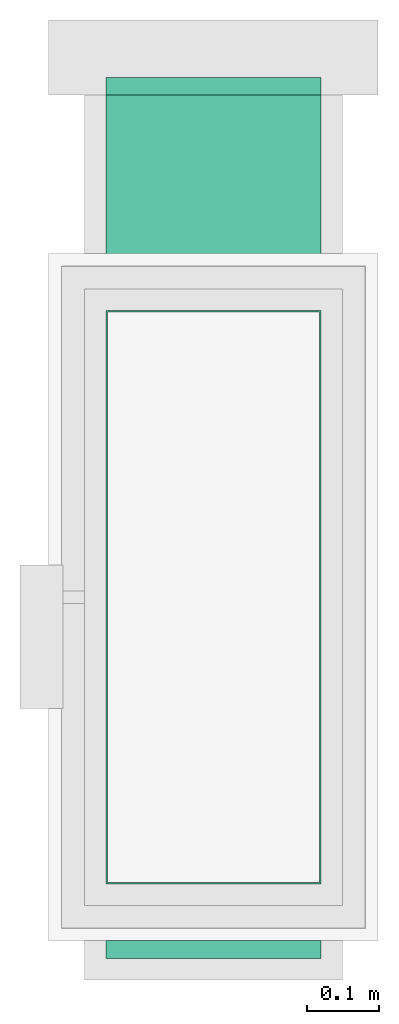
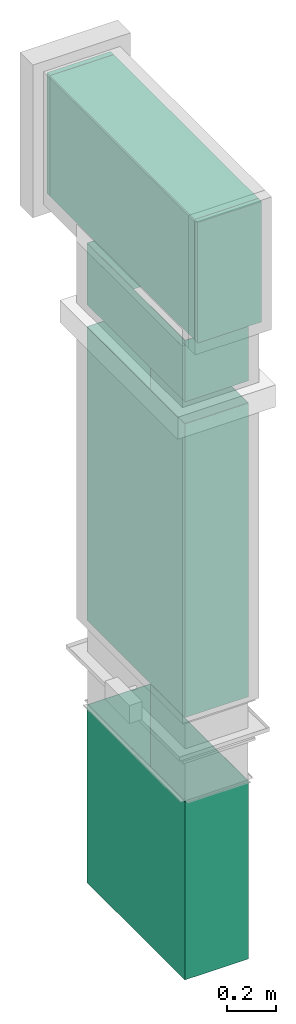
# One storey, part 2 of 4: 4 flow segments, 2 flow fittings.
"""IFC2X3 building model written with IfcOpenShell, lengths in millimetres."""

from ifc_helpers import new_model, entity, si_unit, converted_unit, derived_unit, direction, frame, origin_with_axes, origin_2d_with_axis, place, context, subcontext, project, spatial, hollow_rectangle, extrude, open_shell, surface_model, source, transform, mapped, type_object, element, save


model = new_model("IFC2X3")

# Units and contexts
model_context = context("Model", 3, precision=0.01, world=frame((0.0, 4.29681676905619e-09, 0.0)), true_north=direction((4.01073788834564e-13, 1.0)))
plan_context = context("Plan", 3, precision=0.01, world=frame((0.0, 4.29681676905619e-09, 0.0)), true_north=direction((4.01073788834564e-13, 1.0)))
body_context = subcontext(model_context, "Body", "Model", "MODEL_VIEW")
ifc_project = project(units=[converted_unit("PLANEANGLEUNIT", "DEGREE", entity("IfcPositiveLengthMeasure", 0.0174532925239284), si_unit("PLANEANGLEUNIT", "RADIAN"), dimensions=[0, 0, 0, 0, 0, 0, 0]), si_unit("AREAUNIT", "SQUARE_METRE"), si_unit("LENGTHUNIT", "METRE", prefix="MILLI"), si_unit("MASSUNIT", "GRAM", prefix="KILO"), si_unit("POWERUNIT", "WATT"), si_unit("PRESSUREUNIT", "PASCAL"), si_unit("FORCEUNIT", "NEWTON", prefix="KILO"), si_unit("ELECTRICVOLTAGEUNIT", "VOLT"), si_unit("ELECTRICCURRENTUNIT", "AMPERE"), si_unit("THERMODYNAMICTEMPERATUREUNIT", "DEGREE_CELSIUS"), si_unit("TIMEUNIT", "SECOND"), si_unit("VOLUMEUNIT", "CUBIC_METRE"), derived_unit("LINEARVELOCITYUNIT", [(si_unit("LENGTHUNIT", "METRE"), 1), (si_unit("TIMEUNIT", "SECOND"), -1)]), derived_unit("VOLUMETRICFLOWRATEUNIT", [(si_unit("VOLUMEUNIT", "CUBIC_METRE"), 1), (si_unit("TIMEUNIT", "SECOND"), -1)]), derived_unit("THERMALTRANSMITTANCEUNIT", [(si_unit("POWERUNIT", "WATT"), 1), (si_unit("THERMODYNAMICTEMPERATUREUNIT", "KELVIN"), -1), (si_unit("AREAUNIT", "SQUARE_METRE"), -1)]), derived_unit("SOUNDPRESSUREUNIT", [(si_unit("PRESSUREUNIT", "PASCAL"), 1)])], contexts=[model_context, plan_context])

# Site, building, storey
site_placement = place(None, frame((0.0, -4.29681676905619e-09, 0.0), z_axis=(0.0, 0.0, 1.0), x_axis=(1.0, 0.0, 0.0)))
site = spatial("IfcSite", under=ifc_project, at=site_placement, CompositionType="ELEMENT")
building_placement = place(site_placement, frame((0.0, 4.29681676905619e-09, 0.0), z_axis=(0.0, 0.0, 1.0), x_axis=(1.0, 0.0, 0.0)))
building = spatial("IfcBuilding", under=site, at=building_placement, Name="mc-building", CompositionType="ELEMENT")
storey_placement = place(building_placement, frame((0.0, 0.0, 204000.0), z_axis=(0.0, 0.0, 1.0), x_axis=(1.0, 0.0, 0.0)))
storey = spatial("IfcBuildingStorey", under=building, at=storey_placement, Name="Nivå D", CompositionType="ELEMENT", Elevation=204000.0)

# Flow fittings
duct_fitting_type = type_object("IfcDuctFittingType", Name="magirect_plug1_001", PredefinedType="OBSTRUCTION")
shared_shape_1 = source(origin_with_axes(), body_context, "Body", "SurfaceModel", [
    surface_model("IfcShellBasedSurfaceModel", [(0.0, 150.0, 300.0), (0.0, 150.0, -300.0), (0.0, -150.0, -300.0), (0.0, -150.0, 300.0), (25.0, -150.0, -300.0), (25.0, 150.0, -300.0), (25.0, 150.0, 300.0), (25.0, -150.0, 300.0)], [open_shell([[[0, 1, 2]], [[2, 3, 0]], [[4, 5, 6]], [[6, 7, 4]], [[1, 0, 5]], [[6, 5, 0]], [[2, 1, 5]], [[5, 4, 2]], [[3, 2, 7]], [[4, 7, 2]], [[0, 3, 6]], [[7, 6, 3]]])]),
])
for number, where, z_axis, x_axis, name in (
    (1, (524180.93348, 457233.89597, 9376.44604000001), (0.0, 0.0, 1.0), (0.0, 1.0, 0.0), "magirect_plug1_001"),
    (2, (524180.93348, 456053.89597, 9376.44604000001), (0.0, 0.0, 1.0), (0.0, -1.0, 0.0), "magirect_plug1_001"),
):
    element("IfcFlowFitting", number, at=place(storey_placement, frame(where, z_axis=z_axis, x_axis=x_axis)), inside=storey, type_object=duct_fitting_type, Name=name, context=body_context, shape_type="MappedRepresentation", body=[
        mapped(shared_shape_1, transform((0.0, 0.0, 0.0), scale=1.0)),
    ])

# Flow segments
duct_segment_type = type_object("IfcDuctSegmentType", Name="Rectangular duct", PredefinedType="RIGIDSEGMENT")
shared_shape_2 = source(origin_with_axes(), body_context, "Body", "SweptSolid", [
    extrude(hollow_rectangle(XDim=300.0, YDim=800.0, WallThickness=2.0, at=origin_2d_with_axis()), frame((0.0, 0.0, 0.0), z_axis=(1.0, 0.0, 0.0), x_axis=(0.0, 1.0, 0.0)), (0.0, 0.0, 1.0), 884.7),
])
flow_segment_1_placement = place(storey_placement, frame((524180.93348, 456533.17026, 5845.0), z_axis=(0.0, 1.0, 0.0), x_axis=(0.0, 0.0, 1.0)))
element("IfcFlowSegment", 3, at=flow_segment_1_placement, inside=storey, type_object=duct_segment_type, Name="Rectangular duct", context=body_context, shape_type="MappedRepresentation", body=[
    mapped(shared_shape_2, transform((0.0, 0.0, 0.0), scale=1.0)),
])
shared_shape_3 = source(origin_with_axes(), body_context, "Body", "SweptSolid", [
    extrude(hollow_rectangle(XDim=300.0, YDim=600.0, WallThickness=2.0, at=origin_2d_with_axis()), frame((0.0, 0.0, 0.0), z_axis=(1.0, 0.0, 0.0), x_axis=(0.0, 1.0, 0.0)), (0.0, 0.0, 1.0), 1180.0),
])
flow_segment_2_placement = place(storey_placement, frame((524180.93348, 457233.89597, 9376.44604000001), z_axis=(0.0, 0.0, 1.0), x_axis=(0.0, -1.0, 0.0)))
element("IfcFlowSegment", 4, at=flow_segment_2_placement, inside=storey, type_object=duct_segment_type, Name="Rectangular duct", context=body_context, shape_type="MappedRepresentation", body=[
    mapped(shared_shape_3, transform((0.0, 0.0, 0.0), scale=1.0)),
])
shared_shape_4 = source(origin_with_axes(), body_context, "Body", "SweptSolid", [
    extrude(hollow_rectangle(XDim=300.0, YDim=800.0, WallThickness=2.0, at=origin_2d_with_axis()), frame((0.0, 0.0, 0.0), z_axis=(1.0, 0.0, 0.0), x_axis=(0.0, 1.0, 0.0)), (0.0, 0.0, 1.0), 305.5),
])
flow_segment_3_placement = place(storey_placement, frame((524180.93348, 456533.17026, 8720.93397000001), z_axis=(0.0, 1.0, 0.0), x_axis=(0.0, 0.0, 1.0)))
element("IfcFlowSegment", 5, at=flow_segment_3_placement, inside=storey, type_object=duct_segment_type, Name="Rectangular duct", context=body_context, shape_type="MappedRepresentation", body=[
    mapped(shared_shape_4, transform((0.0, 0.0, 0.0), scale=1.0)),
])
shared_shape_5 = source(origin_with_axes(), body_context, "Body", "SweptSolid", [
    extrude(hollow_rectangle(XDim=300.0, YDim=800.0, WallThickness=2.0, at=origin_2d_with_axis()), frame((0.0, 0.0, 0.0), z_axis=(1.0, 0.0, 0.0), x_axis=(0.0, 1.0, 0.0)), (0.0, 0.0, 1.0), 1461.3),
])
flow_segment_4_placement = place(storey_placement, frame((524180.93348, 456533.17026, 7149.65599), z_axis=(0.0, 1.0, 0.0), x_axis=(0.0, 0.0, 1.0)))
element("IfcFlowSegment", 6, at=flow_segment_4_placement, inside=storey, type_object=duct_segment_type, Name="Rectangular duct", context=body_context, shape_type="MappedRepresentation", body=[
    mapped(shared_shape_5, transform((0.0, 0.0, 0.0), scale=1.0)),
])

save(model, "model.ifc")
